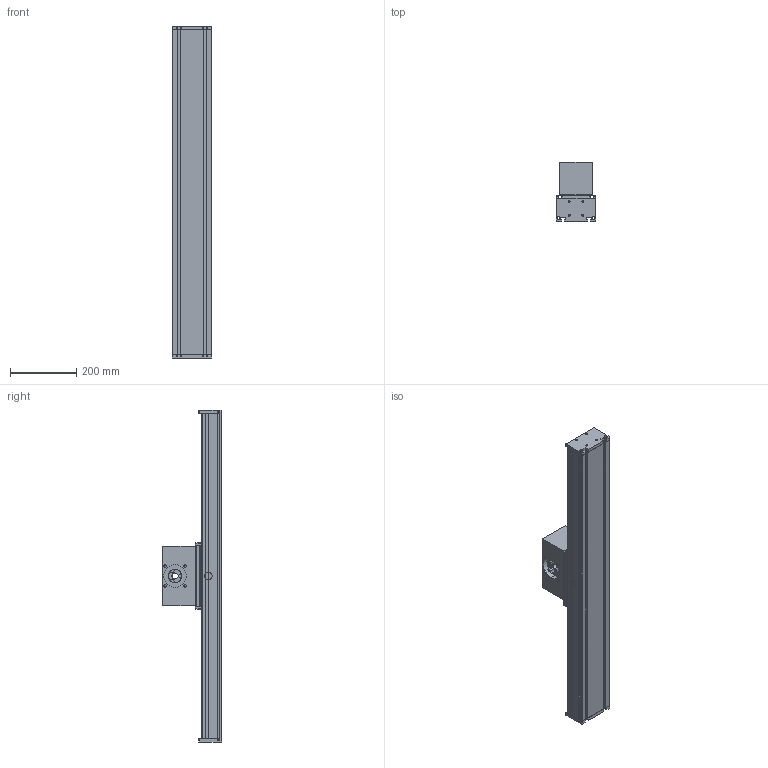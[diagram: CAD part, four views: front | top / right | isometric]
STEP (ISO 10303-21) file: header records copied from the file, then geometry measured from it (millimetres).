
FILE_DESCRIPTION (( 'STEP AP214' ), '1' );
FILE_NAME ('DLSZ120.STEP', '2023-09-12T11:48:46', ( '' ), ( '' ), 'SwSTEP 2.0', 'SolidWorks 2020', '' );
FILE_SCHEMA (( 'AUTOMOTIVE_DESIGN' ));
Length unit declared in the file: millimetre
Products named in the file (5): carriage^DLSZ120_carriage version 0; profile^DLSZ120_standard; DLSZ120; end plate^DLSZ120_standard; timing belt reverse unit^DLSZ120_coupling claw pos.1
Assembly tree (5 placements, depth 2):
  DLSZ120
    profile^DLSZ120_standard
    carriage^DLSZ120_carriage version 0
    timing belt reverse unit^DLSZ120_coupling claw pos.1
    end plate^DLSZ120_standard  x2
Bounding box: 120.2 x 178 x 1000 mm (x, y, z)
Volume: 5590441.6 mm3; surface area: 1301562.7 mm2
Topology: 11 solids, 11 shells, 423 faces, 1137 edges, 736 vertices
Faces by surface type: plane 277, cylinder 132, bspline 8, sphere 4, cone 2
Entity records: 12063 total; most frequent: CARTESIAN_POINT 2390, ORIENTED_EDGE 1962, DIRECTION 1907, EDGE_CURVE 981, LINE 761, VECTOR 761, VERTEX_POINT 640, AXIS2_PLACEMENT_3D 573
